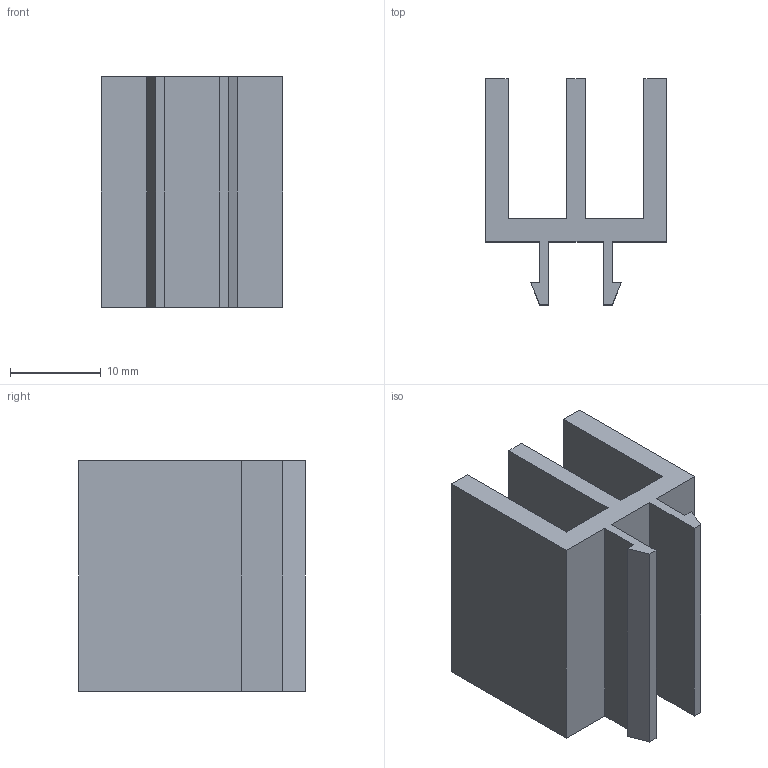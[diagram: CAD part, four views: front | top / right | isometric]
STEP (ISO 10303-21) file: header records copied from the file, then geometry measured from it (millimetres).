
FILE_DESCRIPTION((''),'2;1');
FILE_NAME('C:\Andys Backup Data\WEBSITE\DREAMWEAVER\MiniTec\Products\Edge_Cover_Slide_Sealing_Profiles\CAD\Step\22.1073_1 GUIDE PROFILE 2 GRAY.stp','2013-08-07T07:49:11',('Admin'),(''),'Autodesk Inventor 2012','Autodesk Inventor 2012','');
FILE_SCHEMA(('AUTOMOTIVE_DESIGN { 1 0 10303 214 1 1 1 1 }'));
Length unit declared in the file: inch
Products named in the file (1): 22.1073_1 GUIDE PROFILE 2 GRAY
Bounding box: 20 x 25 x 25.4 mm (x, y, z)
Volume: 4445 mm3; surface area: 4627 mm2
Topology: 1 solids, 1 shells, 26 faces, 72 edges, 48 vertices
Faces by surface type: plane 26
Entity records: 844 total; most frequent: CARTESIAN_POINT 147, ORIENTED_EDGE 144, DIRECTION 126, VECTOR 72, LINE 72, EDGE_CURVE 72, VERTEX_POINT 48, AXIS2_PLACEMENT_3D 27
